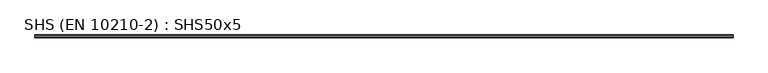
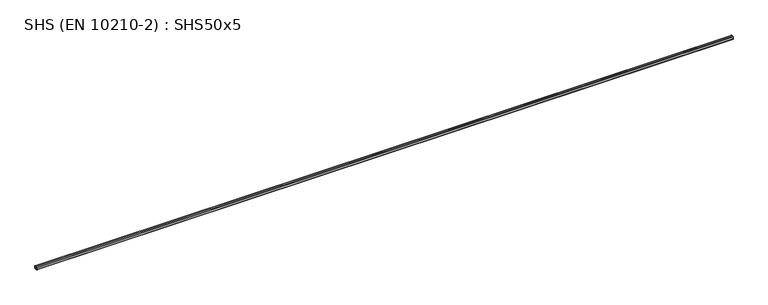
"""IFC4 building model written with IfcOpenShell, lengths in millimetres: beam geometry, SHS (EN 10210-2) : SHS50x5."""

from ifc_helpers import new_model, si_unit, point, frame, frame_2d, origin, place, context, project, spatial, polyline, circle_curve, trimmed, segment, composite_curve, outline, extrude, source, transform, mapped, element, save


def shs_en_10210_2_shs50x5_11b03e88(model_context):
    return source(origin(), model_context, "Body", "SweptSolid", [
        extrude(outline(composite_curve([segment(polyline([(25.0, 17.5), (25.0, -17.5)]), True, "CONTINUOUS"), segment(trimmed(circle_curve(frame_2d((17.5, -17.5)), 7.5), [point((25.0, -17.5))], [point((17.5, -25.0))], False, "CARTESIAN"), True, "CONTINUOUS"), segment(polyline([(17.5, -25.0), (-17.5, -25.0)]), True, "CONTINUOUS"), segment(trimmed(circle_curve(frame_2d((-17.5, -17.5)), 7.5), [point((-17.5, -25.0))], [point((-25.0, -17.5))], False, "CARTESIAN"), True, "CONTINUOUS"), segment(polyline([(-25.0, -17.5), (-25.0, 17.5)]), True, "CONTINUOUS"), segment(trimmed(circle_curve(frame_2d((-17.5, 17.5)), 7.5), [point((-25.0, 17.5))], [point((-17.5, 25.0))], False, "CARTESIAN"), True, "CONTINUOUS"), segment(polyline([(-17.5, 25.0), (17.5, 25.0)]), True, "CONTINUOUS"), segment(trimmed(circle_curve(frame_2d((17.5, 17.5)), 7.5), [point((17.5, 25.0))], [point((25.0, 17.5))], False, "CARTESIAN"), True, "CONTINUOUS")], self_intersect=False), holes=[composite_curve([segment(trimmed(circle_curve(frame_2d((-15.0, 15.0)), 5.0), [point((-15.0, 20.0))], [point((-20.0, 15.0))], True, "CARTESIAN"), True, "CONTINUOUS"), segment(polyline([(-20.0, 15.0), (-20.0, -15.0)]), True, "CONTINUOUS"), segment(trimmed(circle_curve(frame_2d((-15.0, -15.0)), 5.0), [point((-20.0, -15.0))], [point((-15.0, -20.0))], True, "CARTESIAN"), True, "CONTINUOUS"), segment(polyline([(-15.0, -20.0), (15.0, -20.0)]), True, "CONTINUOUS"), segment(trimmed(circle_curve(frame_2d((15.0, -15.0)), 5.0), [point((15.0, -20.0))], [point((20.0, -15.0))], True, "CARTESIAN"), True, "CONTINUOUS"), segment(polyline([(20.0, -15.0), (20.0, 15.0)]), True, "CONTINUOUS"), segment(trimmed(circle_curve(frame_2d((15.0, 15.0)), 5.0), [point((20.0, 15.0))], [point((15.0, 20.0))], True, "CARTESIAN"), True, "CONTINUOUS"), segment(polyline([(15.0, 20.0), (-15.0, 20.0)]), True, "CONTINUOUS")], self_intersect=False)]), frame((-6039.8, 0.0, 0.0), z_axis=(1.0, 0.0, 0.0), x_axis=(0.0, 1.0, 0.0)), (0.0, 0.0, 1.0), 12035.8),
    ])


if __name__ == "__main__":
    model = new_model("IFC4")
    model_context = context("Model", 3, world=origin())
    ifc_project = project(units=[si_unit("LENGTHUNIT", "METRE", prefix="MILLI")], contexts=[model_context])
    site = spatial("IfcSite", under=ifc_project)
    building = spatial("IfcBuilding", under=site)
    placement = place(None, origin())
    shs_en_10210_2_shs50x5_shape = shs_en_10210_2_shs50x5_11b03e88(model_context)
    element("IfcBeam", 1, ObjectType="SHS (EN 10210-2) : SHS50x5", at=placement, inside=building, context=model_context, shape_type="MappedRepresentation", body=[
        mapped(shs_en_10210_2_shs50x5_shape, transform((0.0, 0.0, 0.0), x_axis=(1.0, 0.0, 0.0), y_axis=(0.0, 1.0, 0.0), z_axis=(0.0, 0.0, 1.0))),
    ])
    save(model, "model.ifc")
